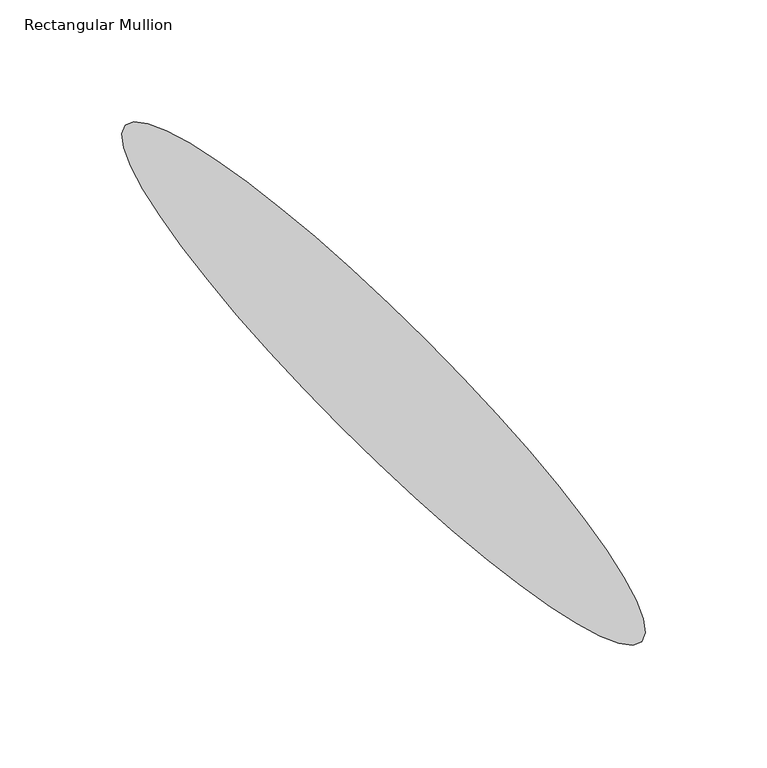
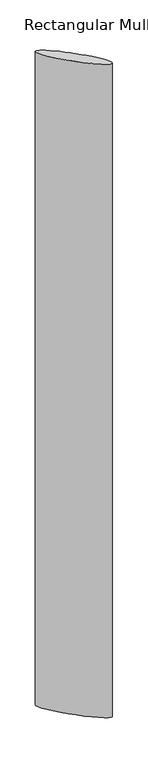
"""IFC4 building model written with IfcOpenShell, lengths in millimetres: member geometry, Rectangular Mullion : RSen_21_CWM_blade - 300 ellips - 45°_gen_duco projects."""

import ifcopenshell
import ifcopenshell.guid

model = None  # the IFC model being written
_history = None  # IfcOwnerHistory: only IFC2X3 demands one
_inside = {}  # id of a spatial element -> (the spatial element, [elements in it])
_under = {}  # id of a project, library or spatial element -> (it, [spatial elements below it])
_declared = {}  # id of a project -> (the project, [libraries it declares])
_typed = {}  # id of a type object -> (the type object, [elements of that type])
_made_of = {}  # id of a material, layer set ... -> (it, [elements and type objects made of it])


def new_model(schema):
    """Start an empty IFC model of exactly this schema.

    Asked for "IFC4X3", IfcOpenShell would pick the latest addendum, in which some entities
    have other attributes; the version numbers below select the first issue.
    IFC2X3 requires an IfcOwnerHistory on every rooted entity: one is made here for all.
    """
    global model, _history
    if schema == "IFC4X3":
        model = ifcopenshell.file(schema_version=(4, 3, 0, 0))
    else:
        model = ifcopenshell.file(schema=schema)
    _inside.clear()
    _under.clear()
    _declared.clear()
    _typed.clear()
    _made_of.clear()
    _history = None
    if model.schema == "IFC2X3":
        org = make("IfcOrganization", Name="unknown")
        user = make(
            "IfcPersonAndOrganization",
            ThePerson=make("IfcPerson", FamilyName="unknown"),
            TheOrganization=org,
        )
        app = make(
            "IfcApplication",
            ApplicationDeveloper=org,
            Version="unknown",
            ApplicationFullName="unknown",
            ApplicationIdentifier="unknown",
        )
        _history = make(
            "IfcOwnerHistory",
            OwningUser=user,
            OwningApplication=app,
            ChangeAction="ADDED",
            CreationDate=0,
        )
    return model


def make(cls, **values):
    """One entity of the class cls with the attributes given. An attribute that is None is left unset."""
    return model.create_entity(
        cls, **{name: value for name, value in values.items() if value is not None}
    )


def rooted(cls, **values):
    """An entity with a GlobalId (a new one), such as an element, a storey or a relation."""
    return make(cls, GlobalId=ifcopenshell.guid.new(), OwnerHistory=_history, **values)


def si_unit(unit_type, name, prefix=None):
    """IfcSIUnit, for example si_unit("LENGTHUNIT", "METRE", prefix="MILLI")."""
    return make("IfcSIUnit", UnitType=unit_type, Prefix=prefix, Name=name)


def assignment(units):
    """IfcUnitAssignment: the units of a project."""
    return None if units is None else make("IfcUnitAssignment", Units=units)


def point(xyz):
    """IfcCartesianPoint."""
    return None if xyz is None else make("IfcCartesianPoint", Coordinates=xyz)


def direction(xyz):
    """IfcDirection."""
    return None if xyz is None else make("IfcDirection", DirectionRatios=xyz)


def frame(location, z_axis=None, x_axis=None):
    """IfcAxis2Placement3D, a coordinate frame: its origin and axes. An axis left out is left unset."""
    return make(
        "IfcAxis2Placement3D",
        Location=point(location),
        Axis=direction(z_axis),
        RefDirection=direction(x_axis),
    )


def origin():
    """The frame at (0, 0, 0) with its axes left unset."""
    return frame((0.0, 0.0, 0.0))


def place(relative_to, where):
    """IfcLocalPlacement: puts the frame where relative to a parent placement (None: the world)."""
    return make(
        "IfcLocalPlacement", PlacementRelTo=relative_to, RelativePlacement=where
    )


def context(
    kind, dimensions, precision=None, world=None, true_north=None, identifier=None
):
    """IfcGeometricRepresentationContext, for example the 3D "Model" context."""
    return make(
        "IfcGeometricRepresentationContext",
        ContextIdentifier=identifier,
        ContextType=kind,
        CoordinateSpaceDimension=dimensions,
        Precision=precision,
        WorldCoordinateSystem=world,
        TrueNorth=true_north,
    )


def project(units=None, contexts=None):
    """IfcProject with its units and contexts."""
    return rooted(
        "IfcProject",
        Name="project",
        RepresentationContexts=contexts,
        UnitsInContext=assignment(units),
    )


def spatial(cls, under=None, at=None, **own):
    """A site, building, storey or space (cls), placed at a placement, below another one or the project."""
    s = rooted(cls, ObjectPlacement=at, **own)
    if under is not None:
        _under.setdefault(under.id(), (under, []))[1].append(s)
    return s


def ellipse_curve(where, semi_axis1, semi_axis2):
    """IfcEllipse in the frame where."""
    return make(
        "IfcEllipse", Position=where, SemiAxis1=semi_axis1, SemiAxis2=semi_axis2
    )


def trimmed(basis, trim1, trim2, sense, master):
    """IfcTrimmedCurve: the piece of a basis curve between two trims."""
    return make(
        "IfcTrimmedCurve",
        BasisCurve=basis,
        Trim1=trim1,
        Trim2=trim2,
        SenseAgreement=sense,
        MasterRepresentation=master,
    )


def shape(context_of_items, identifier, shape_type, items):
    """IfcShapeRepresentation: the items that make up one representation, for example the "Body"."""
    return make(
        "IfcShapeRepresentation",
        ContextOfItems=context_of_items,
        RepresentationIdentifier=identifier,
        RepresentationType=shape_type,
        Items=items,
    )


def source(mapping_origin, context_of_items, identifier, shape_type, items):
    """IfcRepresentationMap: a shape defined once, which mapped items show again and again."""
    return make(
        "IfcRepresentationMap",
        MappingOrigin=mapping_origin,
        MappedRepresentation=shape(context_of_items, identifier, shape_type, items),
    )


def transform(
    local_origin,
    x_axis=None,
    y_axis=None,
    z_axis=None,
    scale=None,
    scale2=None,
    scale3=None,
    uniform=True,
):
    """IfcCartesianTransformationOperator3D, or its non-uniform kind. x_axis, y_axis, z_axis: its Axis1, 2, 3."""
    if uniform:
        return make(
            "IfcCartesianTransformationOperator3D",
            Axis1=direction(x_axis),
            Axis2=direction(y_axis),
            LocalOrigin=point(local_origin),
            Scale=scale,
            Axis3=direction(z_axis),
        )
    return make(
        "IfcCartesianTransformationOperator3DnonUniform",
        Axis1=direction(x_axis),
        Axis2=direction(y_axis),
        LocalOrigin=point(local_origin),
        Scale=scale,
        Axis3=direction(z_axis),
        Scale2=scale2,
        Scale3=scale3,
    )


def mapped(mapping_source, mapping_target):
    """IfcMappedItem: shows the shape of a source again, moved by a transform."""
    return make(
        "IfcMappedItem", MappingSource=mapping_source, MappingTarget=mapping_target
    )


def made_of(thing, what):
    """Note that an element or type object is made of a material, layer set ...; save() writes the relation."""
    if what is not None:
        _made_of.setdefault(what.id(), (what, []))[1].append(thing)
    return thing


def element(
    cls,
    number,
    at=None,
    inside=None,
    cuts=None,
    type_object=None,
    material=None,
    context=None,
    identifier="Body",
    shape_type=None,
    held_by="IfcProductDefinitionShape",
    body=None,
    shapes=None,
    **own,
):
    """One element of the class cls, such as IfcWall. Its Tag is "e" and its number.

    at: its placement. inside: the storey or other place that contains it. cuts: it is an
    opening in that element (IfcRelVoidsElement). A single representation is given by context,
    identifier, shape_type and body (its items); several are given by shapes. held_by: the class
    of the entity that holds the representations. save() writes the other relations.
    """
    e = rooted(cls, Tag="e%d" % number, ObjectPlacement=at, **own)
    if body is not None:
        shapes = [shape(context, identifier, shape_type, body)]
    if shapes is not None:
        e.Representation = make(held_by, Representations=shapes)
    if inside is not None:
        _inside.setdefault(inside.id(), (inside, []))[1].append(e)
    if cuts is not None:
        rooted(
            "IfcRelVoidsElement", RelatingBuildingElement=cuts, RelatedOpeningElement=e
        )
    if type_object is not None:
        _typed.setdefault(type_object.id(), (type_object, []))[1].append(e)
    return made_of(e, material)


def aggregate(whole, parts):
    """IfcRelAggregates: a whole, such as a stair, and the parts it consists of."""
    return rooted("IfcRelAggregates", RelatingObject=whole, RelatedObjects=parts)


def save(model, path):
    """Write the relations noted so far, then the file.

    IfcRelAggregates (storeys below a building ...), IfcRelContainedInSpatialStructure (elements
    in a storey), IfcRelDefinesByType, IfcRelAssociatesMaterial and IfcRelDeclares: one each for
    every whole, place, type object, material and project.
    """
    for whole, parts in _under.values():
        aggregate(whole, parts)
    for where, things in _inside.values():
        rooted(
            "IfcRelContainedInSpatialStructure",
            RelatedElements=things,
            RelatingStructure=where,
        )
    for kind, things in _typed.values():
        rooted("IfcRelDefinesByType", RelatedObjects=things, RelatingType=kind)
    for what, things in _made_of.values():
        rooted("IfcRelAssociatesMaterial", RelatedObjects=things, RelatingMaterial=what)
    for by, libraries in _declared.values():
        rooted("IfcRelDeclares", RelatingContext=by, RelatedDefinitions=libraries)
    model.write(path)


def plane_surface(at):
    """IfcPlane: the flat surface through the origin of the frame at, square to its z axis."""
    return make("IfcPlane", Position=at)


def extruded_surface(curve, direction_of_extrusion, depth):
    """IfcSurfaceOfLinearExtrusion: the curve pushed along a direction by depth."""
    return make(
        "IfcSurfaceOfLinearExtrusion",
        SweptCurve=make("IfcArbitraryOpenProfileDef", ProfileType="CURVE", Curve=curve),
        ExtrudedDirection=direction(direction_of_extrusion),
        Depth=depth,
    )


def advanced_brep(points, edges, surfaces, faces):
    """IfcAdvancedBrep: a solid bounded by faces that lie on surfaces and meet in shared edges.

    An edge is (start, end): straight between two places in points (the first is 0);
    or (start, end, curve); or (start, end, curve, False) where it runs against its curve.
    A face is (place in surfaces, loops), or (place, loops, False) where it looks against
    its surface's normal. A loop lists edges by number (the first is 1), with a minus sign
    where the edge is run from its end to its start. The first loop is the outer one.
    """
    corners = [point(p) for p in points]
    vertices = [make("IfcVertexPoint", VertexGeometry=c) for c in corners]
    made = []
    for start, end, *more in edges:
        made.append(
            make(
                "IfcEdgeCurve",
                EdgeStart=vertices[start],
                EdgeEnd=vertices[end],
                EdgeGeometry=more[0] if more else make("IfcPolyline", Points=[corners[start], corners[end]]),
                SameSense=more[1] if len(more) > 1 else True,
            )
        )
    hull = []
    for where, loops, *sense in faces:
        bounds = []
        for j, loop in enumerate(loops):
            ring = [make("IfcOrientedEdge", EdgeElement=made[abs(k) - 1], Orientation=k > 0) for k in loop]
            bounds.append(
                make(
                    "IfcFaceOuterBound" if j == 0 else "IfcFaceBound",
                    Bound=make("IfcEdgeLoop", EdgeList=ring),
                    Orientation=True,
                )
            )
        hull.append(make("IfcAdvancedFace", Bounds=bounds, FaceSurface=surfaces[where], SameSense=sense[0] if sense else True))
    return make("IfcAdvancedBrep", Outer=make("IfcClosedShell", CfsFaces=hull))


def rectangular_mullion_58689f85(model_context):
    return source(origin(), model_context, "Body", "AdvancedBrep", [
        advanced_brep(
        [(106.0660172, 6.9339828, 0.0), (-106.0660172, 219.0660172, 0.0), (106.0660172, 6.9339828, -3000.0), (-106.0660172, 219.0660172, -3000.0)],
        [
            (0, 1, ellipse_curve(frame((0.0, 113.0, 0.0), z_axis=(0.0, 0.0, 1.0000000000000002), x_axis=(-0.7071067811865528, 0.7071067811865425, 0.0)), 150.0, 25.0)),
            (1, 0, ellipse_curve(frame((0.0, 113.0, 0.0), z_axis=(0.0, 0.0, 1.0000000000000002), x_axis=(-0.7071067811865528, 0.7071067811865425, 0.0)), 150.0, 25.0)),
            (2, 3, ellipse_curve(frame((0.0, 113.0, -3000.0), z_axis=(0.0, 0.0, -1.0000000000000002), x_axis=(-0.7071067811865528, 0.7071067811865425, 0.0)), 150.0, 25.0)),
            (3, 2, ellipse_curve(frame((0.0, 113.0, -3000.0), z_axis=(0.0, 0.0, -1.0000000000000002), x_axis=(-0.7071067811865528, 0.7071067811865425, 0.0)), 150.0, 25.0)),
            (0, 2),
            (3, 1),
        ],
        [
            plane_surface(frame((0.0, -243.3925222, 0.0), z_axis=(0.0, 0.0, 1.0), x_axis=(-1.0, 0.0, 0.0))),
            plane_surface(frame((0.0, -243.3925222, -3000.0), z_axis=(0.0, 0.0, -1.0), x_axis=(-1.0, 0.0, 0.0))),
            extruded_surface(trimmed(ellipse_curve(frame((0.0, 113.0, -3000.0), z_axis=(0.0, 0.0, 1.0000000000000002), x_axis=(-0.7071067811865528, 0.7071067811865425, 0.0)), 150.0, 25.0), [point((106.0660172, 6.9339828, -3000.0))], [point((-106.0660172, 219.0660172, -3000.0))], True, "CARTESIAN"), (0.0, 0.0, 3000.0), 3000.0),
            extruded_surface(trimmed(ellipse_curve(frame((0.0, 113.0, -3000.0), z_axis=(0.0, 0.0, 1.0000000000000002), x_axis=(-0.7071067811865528, 0.7071067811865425, 0.0)), 150.0, 25.0), [point((-106.0660172, 219.0660172, -3000.0))], [point((106.0660172, 6.9339828, -3000.0))], True, "CARTESIAN"), (0.0, 0.0, 3000.0), 3000.0),
        ],
        [
            (0, [[1, 2]]),
            (1, [[3, 4]]),
            (2, [[-1, 5, -4, 6]]),
            (3, [[-2, -6, -3, -5]]),
        ],
    ),
    ])


if __name__ == "__main__":
    model = new_model("IFC4")
    model_context = context("Model", 3, world=origin())
    ifc_project = project(units=[si_unit("LENGTHUNIT", "METRE", prefix="MILLI")], contexts=[model_context])
    site = spatial("IfcSite", under=ifc_project)
    building = spatial("IfcBuilding", under=site)
    placement = place(None, origin())
    rectangular_mullion_shape = rectangular_mullion_58689f85(model_context)
    element("IfcMember", 1, ObjectType="Rectangular Mullion : RSen_21_CWM_blade - 300 ellips - 45°_gen_duco projects", at=placement, inside=building, context=model_context, shape_type="MappedRepresentation", body=[
        mapped(rectangular_mullion_shape, transform((0.0, 0.0, 0.0), x_axis=(1.0, 0.0, 0.0), y_axis=(0.0, 1.0, 0.0), z_axis=(0.0, 0.0, 1.0))),
    ])
    save(model, "model.ifc")
